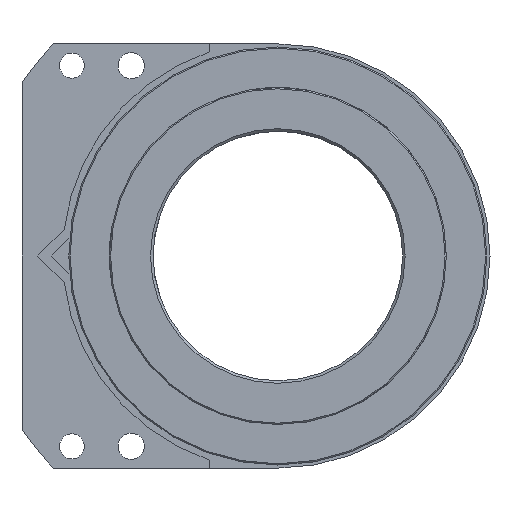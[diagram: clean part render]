
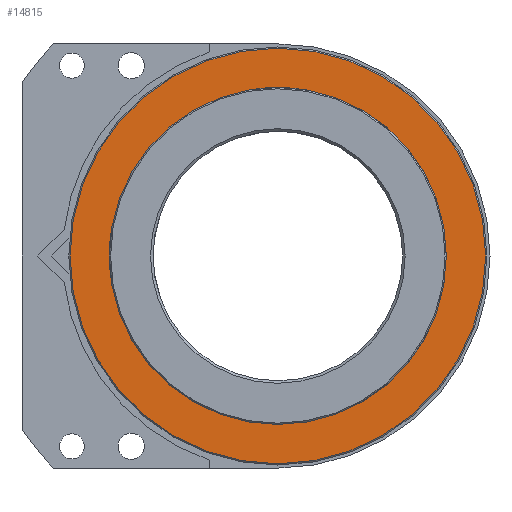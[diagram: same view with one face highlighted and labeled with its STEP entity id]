
A CAD part, front view. The second image highlights one B-rep face of the part: STEP entity #14815.
In plain terms, the highlighted planar face has unit normal (0, -1, 0).
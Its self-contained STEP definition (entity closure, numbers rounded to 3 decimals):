
#1206 = AXIS2_PLACEMENT_3D ( 'NONE', #16831, #10292, #16983 ) ;
#2269 = CARTESIAN_POINT ( 'NONE',  ( 0., 4.4, 0. ) ) ;
#4733 = CARTESIAN_POINT ( 'NONE',  ( 0., 4.4, 16.65 ) ) ;
#5190 = VERTEX_POINT ( 'NONE', #25625 ) ;
#5875 = EDGE_LOOP ( 'NONE', ( #23702 ) ) ;
#7552 = FACE_BOUND ( 'NONE', #5875, .T. ) ;
#10292 = DIRECTION ( 'NONE',  ( 0., 1., 0. ) ) ;
#10771 = EDGE_CURVE ( 'NONE', #5190, #5190, #27894, .T. ) ;
#11141 = EDGE_CURVE ( 'NONE', #21493, #21493, #12754, .T. ) ;
#11756 = ORIENTED_EDGE ( 'NONE', *, *, #11141, .F. ) ;
#12754 = CIRCLE ( 'NONE', #14183, 16.65 ) ;
#13692 = DIRECTION ( 'NONE',  ( 0., 0., -1. ) ) ;
#13946 = DIRECTION ( 'NONE',  ( 0., 0., 1. ) ) ;
#14183 = AXIS2_PLACEMENT_3D ( 'NONE', #17928, #27243, #13946 ) ;
#14392 = FACE_OUTER_BOUND ( 'NONE', #25309, .T. ) ;
#14815 = ADVANCED_FACE ( 'NONE', ( #7552, #14392 ), #14844, .F. ) ;
#14844 = PLANE ( 'NONE',  #1206 ) ;
#16831 = CARTESIAN_POINT ( 'NONE',  ( 0., 4.4, 0. ) ) ;
#16983 = DIRECTION ( 'NONE',  ( 0., 0., 1. ) ) ;
#17928 = CARTESIAN_POINT ( 'NONE',  ( 0., 4.4, 0. ) ) ;
#18276 = DIRECTION ( 'NONE',  ( 0., -1., 0. ) ) ;
#21493 = VERTEX_POINT ( 'NONE', #4733 ) ;
#23702 = ORIENTED_EDGE ( 'NONE', *, *, #10771, .F. ) ;
#24977 = AXIS2_PLACEMENT_3D ( 'NONE', #2269, #18276, #13692 ) ;
#25309 = EDGE_LOOP ( 'NONE', ( #11756 ) ) ;
#25625 = CARTESIAN_POINT ( 'NONE',  ( 0., 4.4, -13.5 ) ) ;
#27243 = DIRECTION ( 'NONE',  ( 0., 1., 0. ) ) ;
#27894 = CIRCLE ( 'NONE', #24977, 13.5 ) ;
